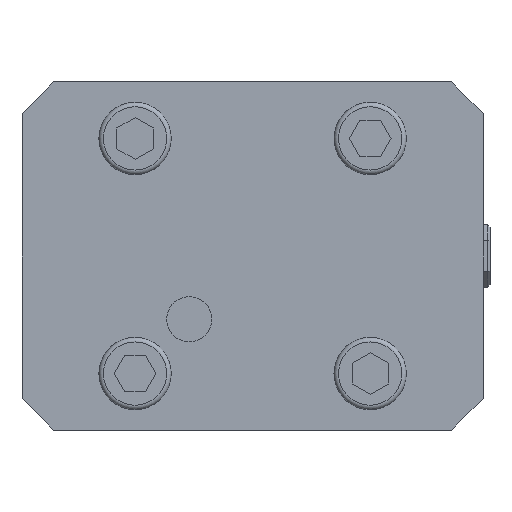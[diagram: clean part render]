
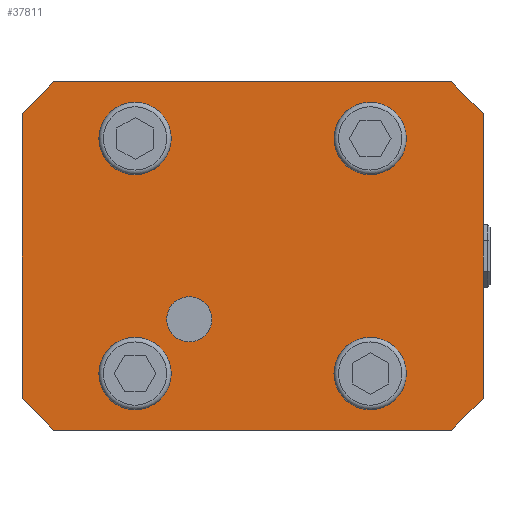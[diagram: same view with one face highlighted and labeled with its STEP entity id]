
A CAD part, front view. The second image highlights one B-rep face of the part: STEP entity #37811.
In plain terms, the highlighted planar face has unit normal (0, -1, 0).
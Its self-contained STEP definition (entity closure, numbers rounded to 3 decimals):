
#104 = VERTEX_POINT ( 'NONE', #14442 ) ;
#211 = DIRECTION ( 'NONE',  ( 0., 0., 1. ) ) ;
#371 = LINE ( 'NONE', #21996, #35390 ) ;
#541 = VERTEX_POINT ( 'NONE', #2468 ) ;
#603 = EDGE_CURVE ( 'NONE', #31184, #31184, #41249, .T. ) ;
#669 = DIRECTION ( 'NONE',  ( 0., -1., 0. ) ) ;
#1153 = EDGE_LOOP ( 'NONE', ( #36606 ) ) ;
#1236 = DIRECTION ( 'NONE',  ( -1., 0., 0. ) ) ;
#1616 = LINE ( 'NONE', #30346, #22272 ) ;
#1654 = VERTEX_POINT ( 'NONE', #26174 ) ;
#2001 = VECTOR ( 'NONE', #22070, 1000. ) ;
#2468 = CARTESIAN_POINT ( 'NONE',  ( -51., 0., 31.5 ) ) ;
#2891 = EDGE_CURVE ( 'NONE', #9536, #9536, #31329, .T. ) ;
#3902 = CIRCLE ( 'NONE', #24222, 6. ) ;
#4263 = AXIS2_PLACEMENT_3D ( 'NONE', #43847, #11748, #25646 ) ;
#4286 = LINE ( 'NONE', #18637, #8872 ) ;
#4359 = PLANE ( 'NONE',  #20448 ) ;
#4814 = LINE ( 'NONE', #9074, #46035 ) ;
#5018 = AXIS2_PLACEMENT_3D ( 'NONE', #33442, #19329, #1236 ) ;
#5029 = EDGE_CURVE ( 'NONE', #32830, #541, #7978, .T. ) ;
#5994 = CARTESIAN_POINT ( 'NONE',  ( 20., 0., 26. ) ) ;
#6426 = DIRECTION ( 'NONE',  ( -1., 0., 0. ) ) ;
#6748 = ORIENTED_EDGE ( 'NONE', *, *, #31044, .F. ) ;
#7596 = DIRECTION ( 'NONE',  ( 0., 0., -1. ) ) ;
#7665 = EDGE_CURVE ( 'NONE', #19997, #22146, #1616, .T. ) ;
#7916 = FACE_OUTER_BOUND ( 'NONE', #29362, .T. ) ;
#7978 = LINE ( 'NONE', #35664, #2001 ) ;
#8872 = VECTOR ( 'NONE', #32987, 1000. ) ;
#9074 = CARTESIAN_POINT ( 'NONE',  ( 51., 0., -38.5 ) ) ;
#9536 = VERTEX_POINT ( 'NONE', #5994 ) ;
#9777 = EDGE_CURVE ( 'NONE', #33732, #33732, #19262, .T. ) ;
#10303 = CARTESIAN_POINT ( 'NONE',  ( -44., 0., -38.5 ) ) ;
#10691 = CARTESIAN_POINT ( 'NONE',  ( 51., 0., -38.5 ) ) ;
#11411 = CARTESIAN_POINT ( 'NONE',  ( 51., 0., 31.5 ) ) ;
#11486 = FACE_BOUND ( 'NONE', #23573, .T. ) ;
#11748 = DIRECTION ( 'NONE',  ( 0., -1., 0. ) ) ;
#12214 = CARTESIAN_POINT ( 'NONE',  ( -44., 0., -38.5 ) ) ;
#12460 = DIRECTION ( 'NONE',  ( 0.707, 0., 0.707 ) ) ;
#12820 = AXIS2_PLACEMENT_3D ( 'NONE', #17712, #26163, #40390 ) ;
#13208 = EDGE_LOOP ( 'NONE', ( #14470 ) ) ;
#13379 = CARTESIAN_POINT ( 'NONE',  ( -14., 0., -14. ) ) ;
#13625 = VERTEX_POINT ( 'NONE', #11411 ) ;
#13825 = CARTESIAN_POINT ( 'NONE',  ( 51., 0., -31.5 ) ) ;
#14442 = CARTESIAN_POINT ( 'NONE',  ( -14., 0., -19. ) ) ;
#14470 = ORIENTED_EDGE ( 'NONE', *, *, #9777, .F. ) ;
#15270 = ORIENTED_EDGE ( 'NONE', *, *, #18729, .F. ) ;
#15372 = EDGE_LOOP ( 'NONE', ( #6748 ) ) ;
#15871 = DIRECTION ( 'NONE',  ( 0., 0., -1. ) ) ;
#15886 = CARTESIAN_POINT ( 'NONE',  ( -20., 0., -26. ) ) ;
#16006 = ORIENTED_EDGE ( 'NONE', *, *, #36351, .T. ) ;
#16849 = ORIENTED_EDGE ( 'NONE', *, *, #7665, .T. ) ;
#17448 = CARTESIAN_POINT ( 'NONE',  ( -51., 0., -38.5 ) ) ;
#17712 = CARTESIAN_POINT ( 'NONE',  ( -26., 0., -26. ) ) ;
#18637 = CARTESIAN_POINT ( 'NONE',  ( 51., 0., 31.5 ) ) ;
#18713 = DIRECTION ( 'NONE',  ( 0., 1., 0. ) ) ;
#18729 = EDGE_CURVE ( 'NONE', #35321, #35321, #3902, .T. ) ;
#18736 = DIRECTION ( 'NONE',  ( 0.707, 0., -0.707 ) ) ;
#18942 = FACE_BOUND ( 'NONE', #23803, .T. ) ;
#19262 = CIRCLE ( 'NONE', #4263, 6. ) ;
#19329 = DIRECTION ( 'NONE',  ( 0., -1., 0. ) ) ;
#19400 = DIRECTION ( 'NONE',  ( 0., 0., 1. ) ) ;
#19997 = VERTEX_POINT ( 'NONE', #21842 ) ;
#20448 = AXIS2_PLACEMENT_3D ( 'NONE', #26291, #18713, #19400 ) ;
#20984 = LINE ( 'NONE', #17448, #39728 ) ;
#21820 = CARTESIAN_POINT ( 'NONE',  ( 26., 0., -26. ) ) ;
#21842 = CARTESIAN_POINT ( 'NONE',  ( 44., 0., -38.5 ) ) ;
#21877 = EDGE_CURVE ( 'NONE', #1654, #29551, #40779, .T. ) ;
#21996 = CARTESIAN_POINT ( 'NONE',  ( 51., 0., 38.5 ) ) ;
#22070 = DIRECTION ( 'NONE',  ( -0.707, 0., -0.707 ) ) ;
#22146 = VERTEX_POINT ( 'NONE', #13825 ) ;
#22272 = VECTOR ( 'NONE', #12460, 1000. ) ;
#22418 = VECTOR ( 'NONE', #6426, 1000. ) ;
#22944 = FACE_BOUND ( 'NONE', #13208, .T. ) ;
#23332 = VECTOR ( 'NONE', #18736, 1000. ) ;
#23573 = EDGE_LOOP ( 'NONE', ( #36469 ) ) ;
#23803 = EDGE_LOOP ( 'NONE', ( #15270 ) ) ;
#24222 = AXIS2_PLACEMENT_3D ( 'NONE', #21820, #669, #211 ) ;
#24310 = ORIENTED_EDGE ( 'NONE', *, *, #36554, .T. ) ;
#24405 = DIRECTION ( 'NONE',  ( 0., 0., -1. ) ) ;
#25646 = DIRECTION ( 'NONE',  ( 0., 0., -1. ) ) ;
#26050 = FACE_BOUND ( 'NONE', #1153, .T. ) ;
#26163 = DIRECTION ( 'NONE',  ( 0., -1., 0. ) ) ;
#26174 = CARTESIAN_POINT ( 'NONE',  ( -51., 0., -31.5 ) ) ;
#26291 = CARTESIAN_POINT ( 'NONE',  ( 51., 0., -38.5 ) ) ;
#26381 = EDGE_CURVE ( 'NONE', #541, #1654, #20984, .T. ) ;
#28870 = DIRECTION ( 'NONE',  ( -1., 0., 0. ) ) ;
#29362 = EDGE_LOOP ( 'NONE', ( #16006, #39046, #33025, #29617, #42985, #16849, #34447, #24310 ) ) ;
#29551 = VERTEX_POINT ( 'NONE', #10303 ) ;
#29617 = ORIENTED_EDGE ( 'NONE', *, *, #21877, .T. ) ;
#30346 = CARTESIAN_POINT ( 'NONE',  ( 51., 0., -31.5 ) ) ;
#31044 = EDGE_CURVE ( 'NONE', #104, #104, #32634, .T. ) ;
#31147 = EDGE_CURVE ( 'NONE', #13625, #22146, #4814, .T. ) ;
#31184 = VERTEX_POINT ( 'NONE', #15886 ) ;
#31329 = CIRCLE ( 'NONE', #5018, 6. ) ;
#32634 = CIRCLE ( 'NONE', #34079, 5. ) ;
#32651 = EDGE_CURVE ( 'NONE', #19997, #29551, #43032, .T. ) ;
#32830 = VERTEX_POINT ( 'NONE', #34738 ) ;
#32987 = DIRECTION ( 'NONE',  ( -0.707, 0., 0.707 ) ) ;
#33025 = ORIENTED_EDGE ( 'NONE', *, *, #26381, .T. ) ;
#33442 = CARTESIAN_POINT ( 'NONE',  ( 26., 0., 26. ) ) ;
#33732 = VERTEX_POINT ( 'NONE', #33967 ) ;
#33967 = CARTESIAN_POINT ( 'NONE',  ( -26., 0., 20. ) ) ;
#34079 = AXIS2_PLACEMENT_3D ( 'NONE', #13379, #46131, #24405 ) ;
#34447 = ORIENTED_EDGE ( 'NONE', *, *, #31147, .F. ) ;
#34738 = CARTESIAN_POINT ( 'NONE',  ( -44., 0., 38.5 ) ) ;
#35321 = VERTEX_POINT ( 'NONE', #45648 ) ;
#35390 = VECTOR ( 'NONE', #28870, 1000. ) ;
#35664 = CARTESIAN_POINT ( 'NONE',  ( -44., 0., 38.5 ) ) ;
#36351 = EDGE_CURVE ( 'NONE', #43663, #32830, #371, .T. ) ;
#36469 = ORIENTED_EDGE ( 'NONE', *, *, #603, .F. ) ;
#36554 = EDGE_CURVE ( 'NONE', #13625, #43663, #4286, .T. ) ;
#36606 = ORIENTED_EDGE ( 'NONE', *, *, #2891, .F. ) ;
#36676 = CARTESIAN_POINT ( 'NONE',  ( 44., 0., 38.5 ) ) ;
#37811 = ADVANCED_FACE ( 'NONE', ( #40752, #26050, #18942, #11486, #22944, #7916 ), #4359, .F. ) ;
#39046 = ORIENTED_EDGE ( 'NONE', *, *, #5029, .T. ) ;
#39728 = VECTOR ( 'NONE', #7596, 1000. ) ;
#40390 = DIRECTION ( 'NONE',  ( 1., 0., 0. ) ) ;
#40752 = FACE_BOUND ( 'NONE', #15372, .T. ) ;
#40779 = LINE ( 'NONE', #12214, #23332 ) ;
#41249 = CIRCLE ( 'NONE', #12820, 6. ) ;
#42985 = ORIENTED_EDGE ( 'NONE', *, *, #32651, .F. ) ;
#43032 = LINE ( 'NONE', #10691, #22418 ) ;
#43663 = VERTEX_POINT ( 'NONE', #36676 ) ;
#43847 = CARTESIAN_POINT ( 'NONE',  ( -26., 0., 26. ) ) ;
#45648 = CARTESIAN_POINT ( 'NONE',  ( 26., 0., -20. ) ) ;
#46035 = VECTOR ( 'NONE', #15871, 1000. ) ;
#46131 = DIRECTION ( 'NONE',  ( 0., -1., 0. ) ) ;
